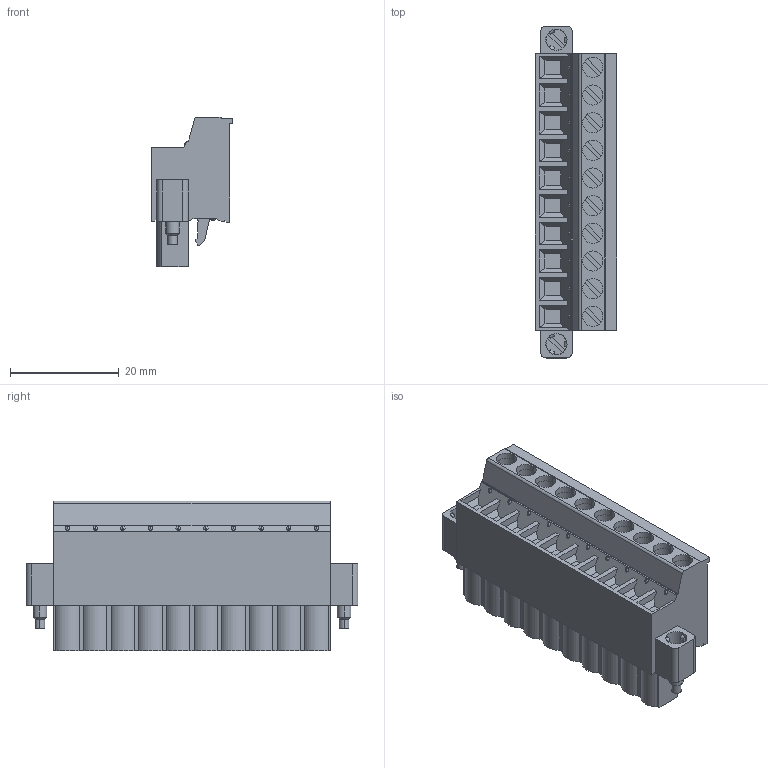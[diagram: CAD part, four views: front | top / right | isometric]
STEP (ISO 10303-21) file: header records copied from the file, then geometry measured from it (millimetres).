
FILE_DESCRIPTION((''),'2;1');
FILE_NAME('CONN_CRIO_10_POS_CMBCN','2007-01-25T',('chrisj'),(''),'PRO/ENGINEER BY PARAMETRIC TECHNOLOGY CORPORATION, 2006080','PRO/ENGINEER BY PARAMETRIC TECHNOLOGY CORPORATION, 2006080','');
FILE_SCHEMA(('AUTOMOTIVE_DESIGN_CC2 { 1 2 10303 214 -1 1 5 2 }'));
Length unit declared in the file: inch
Products named in the file (1): CONN_CRIO_10_POS_CMBCN
Bounding box: 15 x 60.96 x 27.5 mm (x, y, z)
Volume: 13461.9 mm3; surface area: 6899.4 mm2
Topology: 1 solids, 1 shells, 615 faces, 1546 edges, 1017 vertices
Faces by surface type: plane 390, cylinder 167, sphere 28, cone 24, torus 6
Entity records: 18623 total; most frequent: CARTESIAN_POINT 3330, DIRECTION 3275, ORIENTED_EDGE 3092, EDGE_CURVE 1546, AXIS2_PLACEMENT_3D 1138, VERTEX_POINT 1017, VECTOR 999, LINE 999
